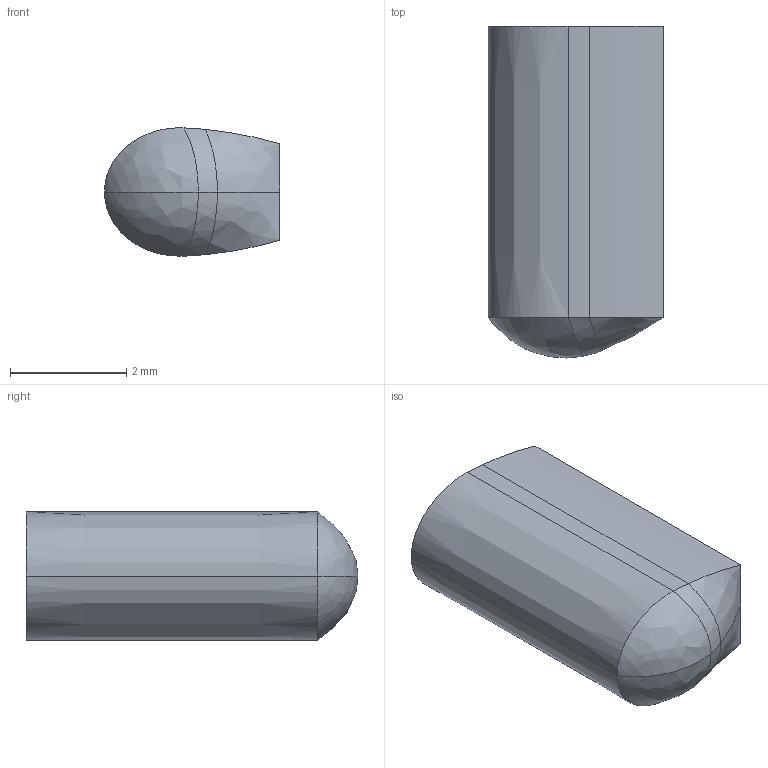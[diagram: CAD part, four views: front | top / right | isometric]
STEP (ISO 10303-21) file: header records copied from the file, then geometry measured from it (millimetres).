
FILE_DESCRIPTION((''),'2;1');
FILE_NAME('DE10-12','2004-03-24T',('tmeister'),(''),'PRO/ENGINEER BY PARAMETRIC TECHNOLOGY CORPORATION, 2002390','PRO/ENGINEER BY PARAMETRIC TECHNOLOGY CORPORATION, 2002390','');
FILE_SCHEMA(('CONFIG_CONTROL_DESIGN'));
Length unit declared in the file: millimetre
Products named in the file (1): DE10-12
Bounding box: 3.01 x 5.7 x 2.2 mm (x, y, z)
Surface area: 51.7 mm2 (no closed solid volume)
Topology: 0 solids, 1 shells, 13 faces, 31 edges, 17 vertices
Faces by surface type: bspline 6, cylinder 4, extrusion 2, plane 1
Entity records: 550 total; most frequent: CARTESIAN_POINT 261, ORIENTED_EDGE 51, DIRECTION 38, EDGE_CURVE 29, VERTEX_POINT 17, AXIS2_PLACEMENT_3D 13, EDGE_LOOP 13, FACE_OUTER_BOUND 13
